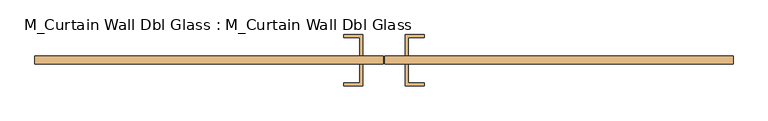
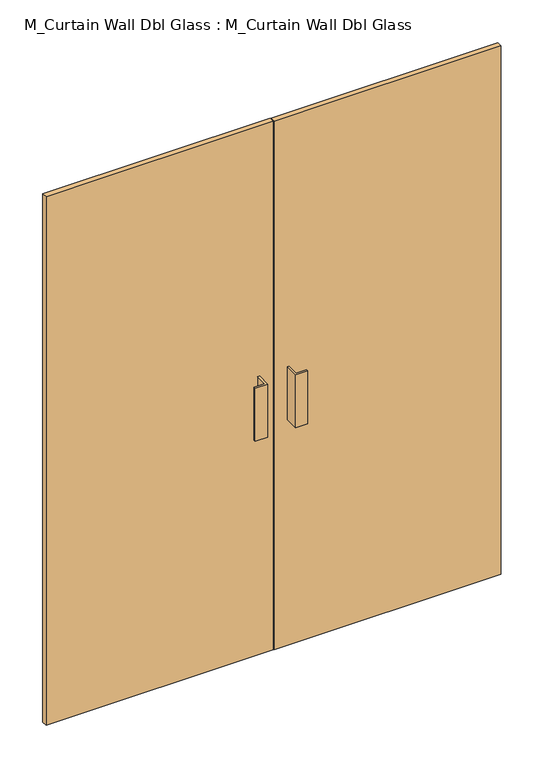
"""IFC4 building model written with IfcOpenShell, lengths in millimetres: door geometry, M_Curtain Wall Dbl Glass : M_Curtain Wall Dbl Glass."""

from ifc_helpers import new_model, si_unit, frame, origin, origin_with_axes, place, context, project, spatial, polyline, outline, extrude, source, transform, mapped, element, save


def m_curtain_wall_dbl_glass_m_curtain_wall_dbl_glass_37a54d4e(model_context):
    return source(origin(), model_context, "Body", "SweptSolid", [
        extrude(outline(polyline([(-1.5875, 30.95), (-825.0, 30.95), (-825.0, 50.0), (-1.5875, 50.0), (-1.5875, 30.95)])), origin_with_axes(), (0.0, 0.0, 1.0), 2025.0),
        extrude(outline(polyline([(825.0, 30.95), (1.5875, 30.95), (1.5875, 50.0), (825.0, 50.0), (825.0, 30.95)])), origin_with_axes(), (0.0, 0.0, 1.0), 2025.0),
        extrude(outline(polyline([(-50.8, 100.8), (-50.8, 50.0), (-57.15, 50.0), (-57.15, 94.45), (-95.25, 94.45), (-95.25, 100.8), (-50.8, 100.8)])), frame((0.0, 0.0, 863.6), z_axis=(0.0, 0.0, 1.0), x_axis=(1.0, 0.0, 0.0)), (0.0, 0.0, 1.0), 203.2),
        extrude(outline(polyline([(50.8, 100.8), (95.25, 100.8), (95.25, 94.45), (57.15, 94.45), (57.15, 50.0), (50.8, 50.0), (50.8, 100.8)])), frame((0.0, 0.0, 863.6), z_axis=(0.0, 0.0, 1.0), x_axis=(1.0, 0.0, 0.0)), (0.0, 0.0, 1.0), 203.2),
        extrude(outline(polyline([(-50.8, -19.85), (-95.25, -19.85), (-95.25, -13.5), (-57.15, -13.5), (-57.15, 30.95), (-50.8, 30.95), (-50.8, -19.85)])), frame((0.0, 0.0, 863.6), z_axis=(0.0, 0.0, 1.0), x_axis=(1.0, 0.0, 0.0)), (0.0, 0.0, 1.0), 203.2),
        extrude(outline(polyline([(50.8, -19.85), (50.8, 30.95), (57.15, 30.95), (57.15, -13.5), (95.25, -13.5), (95.25, -19.85), (50.8, -19.85)])), frame((0.0, 0.0, 863.6), z_axis=(0.0, 0.0, 1.0), x_axis=(1.0, 0.0, 0.0)), (0.0, 0.0, 1.0), 203.2),
    ])


if __name__ == "__main__":
    model = new_model("IFC4")
    model_context = context("Model", 3, world=origin())
    ifc_project = project(units=[si_unit("LENGTHUNIT", "METRE", prefix="MILLI")], contexts=[model_context])
    site = spatial("IfcSite", under=ifc_project)
    building = spatial("IfcBuilding", under=site)
    placement = place(None, origin())
    m_curtain_wall_dbl_glass_m_curtain_wall_dbl_glass_shape = m_curtain_wall_dbl_glass_m_curtain_wall_dbl_glass_37a54d4e(model_context)
    element("IfcDoor", 1, ObjectType="M_Curtain Wall Dbl Glass : M_Curtain Wall Dbl Glass", at=placement, inside=building, context=model_context, shape_type="MappedRepresentation", body=[
        mapped(m_curtain_wall_dbl_glass_m_curtain_wall_dbl_glass_shape, transform((0.0, 0.0, 0.0), x_axis=(1.0, 0.0, 0.0), y_axis=(0.0, 1.0, 0.0), z_axis=(0.0, 0.0, 1.0))),
    ])
    save(model, "model.ifc")
